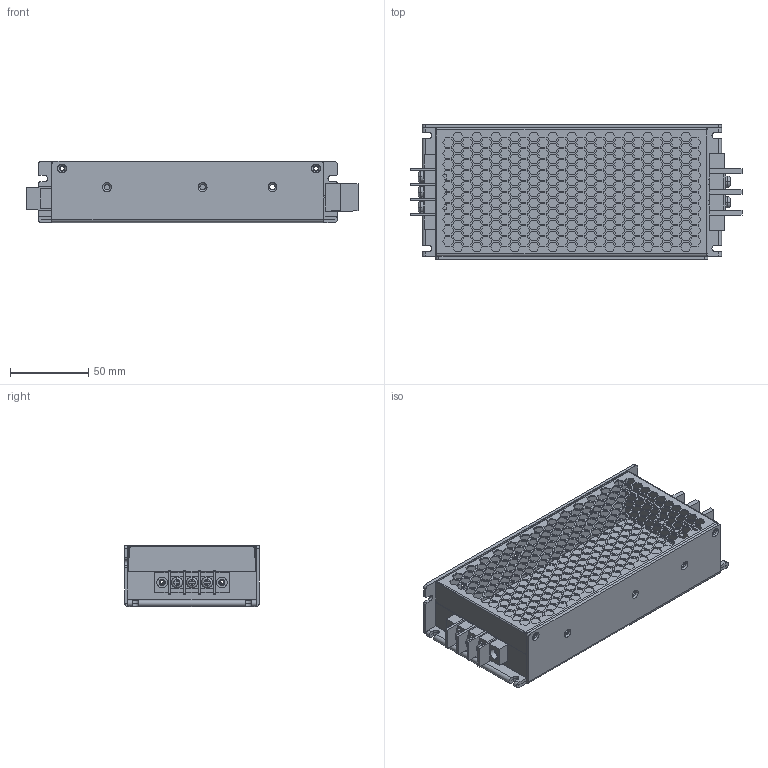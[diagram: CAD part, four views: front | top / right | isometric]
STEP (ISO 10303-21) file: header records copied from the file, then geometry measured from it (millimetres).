
FILE_DESCRIPTION(('Creo Elements/Direct Modeling STEP Export'),'2;1');
FILE_NAME('RSD200.stp','2017-05-02T10:38:11',(''),(''),'PTC Creo Elements/Direct Modeling STEP processor for AP214 (Solid Model)','PTC Creo Elements/Direct Modeling 19.0 09-May-2014 (C) Parametric Technology GmbH','');
FILE_SCHEMA(('AUTOMOTIVE_DESIGN { 1 0 10303 214 1 1 1 1 }'));
Length unit declared in the file: millimetre
Products named in the file (10): p1.2; p1.1; p1; ˋ°Ûy; a1; HS3; HS2; HS1; a3; RSD-200
Assembly tree (9 placements, depth 4):
  RSD-200
    a3
    HS1
    HS2
    HS3
    a1
      ˋ°Ûy
        p1
        p1.1
        p1.2
Bounding box: 211.8 x 86 x 39 mm (x, y, z)
Volume: 87691.4 mm3; surface area: 98903.8 mm2
Topology: 3 solids, 3 shells, 2195 faces, 6362 edges, 4190 vertices
Faces by surface type: plane 2021, cylinder 128, torus 26, cone 20
Entity records: 72174 total; most frequent: ORIENTED_EDGE 12724, CARTESIAN_POINT 12481, DIRECTION 10659, EDGE_CURVE 6362, VECTOR 5923, LINE 5923, VERTEX_POINT 4190, EDGE_LOOP 2826
